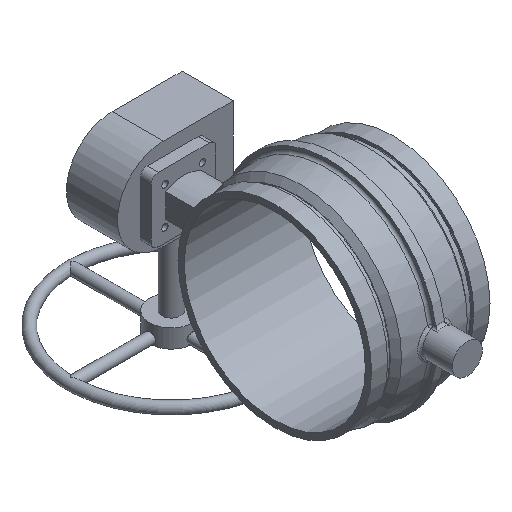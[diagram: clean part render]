
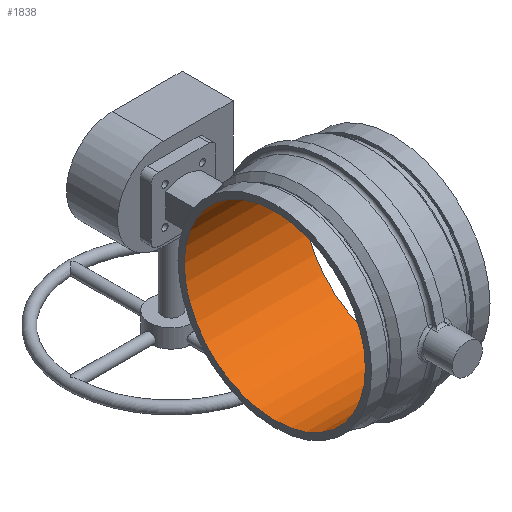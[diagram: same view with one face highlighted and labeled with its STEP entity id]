
A CAD part, isometric view. The second image highlights one B-rep face of the part: STEP entity #1838.
In plain terms, the highlighted cylindrical face has radius 213.804 mm (diameter 427.609 mm), a full revolution.
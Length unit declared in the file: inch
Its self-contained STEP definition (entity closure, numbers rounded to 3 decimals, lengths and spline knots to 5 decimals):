
#170=CIRCLE('',#2053,8.4175);
#171=CIRCLE('',#2054,8.4175);
#172=CIRCLE('',#2056,8.4175);
#173=CIRCLE('',#2057,8.4175);
#299=FACE_OUTER_BOUND('',#406,.T.);
#406=EDGE_LOOP('',(#1580,#1581,#1582,#1583,#1584,#1585));
#479=LINE('',#4044,#549);
#549=VECTOR('',#2526,8.4175);
#805=VERTEX_POINT('',#4038);
#806=VERTEX_POINT('',#4039);
#807=VERTEX_POINT('',#4043);
#808=VERTEX_POINT('',#4045);
#1068=EDGE_CURVE('',#805,#806,#170,.T.);
#1069=EDGE_CURVE('',#806,#805,#171,.T.);
#1070=EDGE_CURVE('',#806,#807,#479,.T.);
#1071=EDGE_CURVE('',#808,#807,#172,.T.);
#1072=EDGE_CURVE('',#807,#808,#173,.T.);
#1580=ORIENTED_EDGE('',*,*,#1068,.T.);
#1581=ORIENTED_EDGE('',*,*,#1070,.T.);
#1582=ORIENTED_EDGE('',*,*,#1071,.F.);
#1583=ORIENTED_EDGE('',*,*,#1072,.F.);
#1584=ORIENTED_EDGE('',*,*,#1070,.F.);
#1585=ORIENTED_EDGE('',*,*,#1069,.T.);
#1649=CYLINDRICAL_SURFACE('',#2055,8.4175);
#1838=ADVANCED_FACE('',(#299),#1649,.F.);
#2053=AXIS2_PLACEMENT_3D('',#4040,#2520,#2521);
#2054=AXIS2_PLACEMENT_3D('',#4041,#2522,#2523);
#2055=AXIS2_PLACEMENT_3D('',#4042,#2524,#2525);
#2056=AXIS2_PLACEMENT_3D('',#4046,#2527,#2528);
#2057=AXIS2_PLACEMENT_3D('',#4047,#2529,#2530);
#2520=DIRECTION('center_axis',(1.,0.,0.));
#2521=DIRECTION('ref_axis',(0.,1.,0.));
#2522=DIRECTION('center_axis',(1.,0.,0.));
#2523=DIRECTION('ref_axis',(0.,1.,0.));
#2524=DIRECTION('center_axis',(1.,0.,0.));
#2525=DIRECTION('ref_axis',(0.,1.,0.));
#2526=DIRECTION('',(-1.,0.,0.));
#2527=DIRECTION('center_axis',(1.,0.,0.));
#2528=DIRECTION('ref_axis',(0.,1.,0.));
#2529=DIRECTION('center_axis',(1.,0.,0.));
#2530=DIRECTION('ref_axis',(0.,1.,0.));
#4038=CARTESIAN_POINT('',(5.5,8.4175,0.));
#4039=CARTESIAN_POINT('',(5.5,-8.4175,0.));
#4040=CARTESIAN_POINT('Origin',(5.5,0.,0.));
#4041=CARTESIAN_POINT('Origin',(5.5,0.,0.));
#4042=CARTESIAN_POINT('Origin',(0.,0.,0.));
#4043=CARTESIAN_POINT('',(-5.5,-8.4175,0.));
#4044=CARTESIAN_POINT('',(0.,-8.4175,0.));
#4045=CARTESIAN_POINT('',(-5.5,8.4175,0.));
#4046=CARTESIAN_POINT('Origin',(-5.5,0.,0.));
#4047=CARTESIAN_POINT('Origin',(-5.5,0.,0.));
